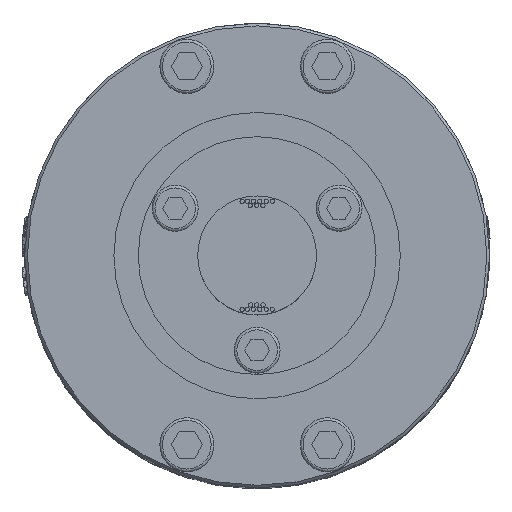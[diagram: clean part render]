
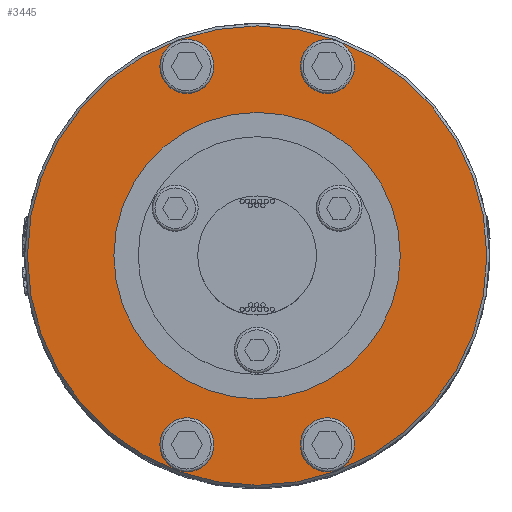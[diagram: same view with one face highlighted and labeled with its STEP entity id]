
A CAD part, top view. The second image highlights one B-rep face of the part: STEP entity #3445.
In plain terms, the highlighted planar face has unit normal (0, 0, 1).
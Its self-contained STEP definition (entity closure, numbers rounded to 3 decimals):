
#553=FACE_BOUND('',#8864,.T.);
#554=FACE_BOUND('',#8865,.T.);
#555=FACE_BOUND('',#8866,.T.);
#556=FACE_BOUND('',#8867,.T.);
#557=FACE_BOUND('',#8868,.T.);
#558=FACE_BOUND('',#8869,.T.);
#828=CIRCLE('',#28463,42.5);
#829=CIRCLE('',#28466,26.5);
#830=CIRCLE('',#28467,5.);
#831=CIRCLE('',#28468,5.);
#832=CIRCLE('',#28469,5.);
#833=CIRCLE('',#28470,5.);
#1398=PLANE('',#28471);
#3445=ADVANCED_FACE('',(#553,#554,#555,#556,#557,#558),#1398,.T.);
#8864=EDGE_LOOP('',(#16728));
#8865=EDGE_LOOP('',(#16729));
#8866=EDGE_LOOP('',(#16730));
#8867=EDGE_LOOP('',(#16731));
#8868=EDGE_LOOP('',(#16732));
#8869=EDGE_LOOP('',(#16733));
#16728=ORIENTED_EDGE('',*,*,#23568,.T.);
#16729=ORIENTED_EDGE('',*,*,#23569,.F.);
#16730=ORIENTED_EDGE('',*,*,#23570,.F.);
#16731=ORIENTED_EDGE('',*,*,#23571,.F.);
#16732=ORIENTED_EDGE('',*,*,#23572,.F.);
#16733=ORIENTED_EDGE('',*,*,#23567,.T.);
#19603=VERTEX_POINT('',#58612);
#19604=VERTEX_POINT('',#58616);
#19605=VERTEX_POINT('',#58618);
#19606=VERTEX_POINT('',#58620);
#19607=VERTEX_POINT('',#58622);
#19608=VERTEX_POINT('',#58624);
#23567=EDGE_CURVE('',#19603,#19603,#828,.T.);
#23568=EDGE_CURVE('',#19604,#19604,#829,.T.);
#23569=EDGE_CURVE('',#19605,#19605,#830,.T.);
#23570=EDGE_CURVE('',#19606,#19606,#831,.T.);
#23571=EDGE_CURVE('',#19607,#19607,#832,.T.);
#23572=EDGE_CURVE('',#19608,#19608,#833,.T.);
#28463=AXIS2_PLACEMENT_3D('',#58611,#31534,#31535);
#28466=AXIS2_PLACEMENT_3D('',#58615,#31540,#31541);
#28467=AXIS2_PLACEMENT_3D('',#58617,#31542,#31543);
#28468=AXIS2_PLACEMENT_3D('',#58619,#31544,#31545);
#28469=AXIS2_PLACEMENT_3D('',#58621,#31546,#31547);
#28470=AXIS2_PLACEMENT_3D('',#58623,#31548,#31549);
#28471=AXIS2_PLACEMENT_3D('',#58625,#31550,#31551);
#31534=DIRECTION('',(0.,0.,1.));
#31535=DIRECTION('',(1.,0.,0.));
#31540=DIRECTION('',(0.,0.,-1.));
#31541=DIRECTION('',(1.,0.,0.));
#31542=DIRECTION('',(0.,0.,1.));
#31543=DIRECTION('',(-1.,0.,0.));
#31544=DIRECTION('',(0.,0.,1.));
#31545=DIRECTION('',(-1.,0.,0.));
#31546=DIRECTION('',(0.,0.,1.));
#31547=DIRECTION('',(-1.,0.,0.));
#31548=DIRECTION('',(0.,0.,1.));
#31549=DIRECTION('',(-1.,0.,0.));
#31550=DIRECTION('',(0.,0.,1.));
#31551=DIRECTION('',(1.,0.,0.));
#58611=CARTESIAN_POINT('',(0.,0.,111.));
#58612=CARTESIAN_POINT('',(42.5,0.,111.));
#58615=CARTESIAN_POINT('',(0.,0.,111.));
#58616=CARTESIAN_POINT('',(26.5,0.,111.));
#58617=CARTESIAN_POINT('',(13.,35.,111.));
#58618=CARTESIAN_POINT('',(8.,35.,111.));
#58619=CARTESIAN_POINT('',(-13.,35.,111.));
#58620=CARTESIAN_POINT('',(-18.,35.,111.));
#58621=CARTESIAN_POINT('',(-13.,-35.,111.));
#58622=CARTESIAN_POINT('',(-18.,-35.,111.));
#58623=CARTESIAN_POINT('',(13.,-35.,111.));
#58624=CARTESIAN_POINT('',(8.,-35.,111.));
#58625=CARTESIAN_POINT('',(0.,0.,111.));
